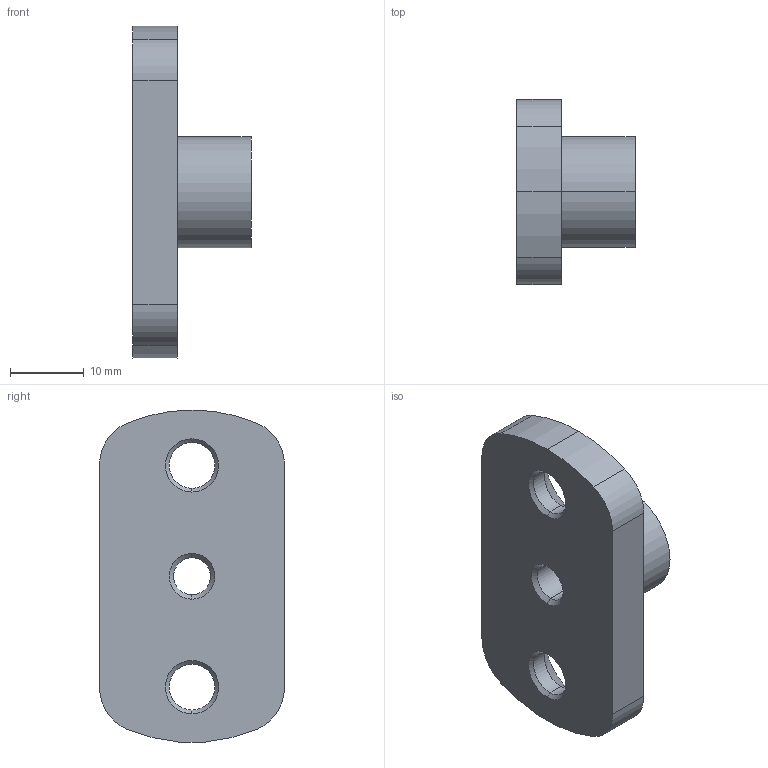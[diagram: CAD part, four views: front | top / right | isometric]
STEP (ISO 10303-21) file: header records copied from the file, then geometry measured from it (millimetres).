
FILE_DESCRIPTION (( 'STEP AP214' ), '1' );
FILE_NAME ('3490-45-M6-16-ZB.step', '2023-06-26T10:14:57', ( '' ), ( '' ), 'SwSTEP 2.0', 'SolidWorks 2022', '' );
FILE_SCHEMA (( 'AUTOMOTIVE_DESIGN' ));
Length unit declared in the file: millimetre
Products named in the file (1): 3490-45-M6-16-ZB
Bounding box: 16 x 25 x 44.93 mm (x, y, z)
Volume: 7102.3 mm3; surface area: 3588.5 mm2
Topology: 1 solids, 1 shells, 32 faces, 75 edges, 46 vertices
Faces by surface type: cylinder 15, cone 12, plane 5
Entity records: 993 total; most frequent: DIRECTION 183, CARTESIAN_POINT 154, ORIENTED_EDGE 150, EDGE_CURVE 75, AXIS2_PLACEMENT_3D 75, VERTEX_POINT 46, CIRCLE 42, EDGE_LOOP 39
